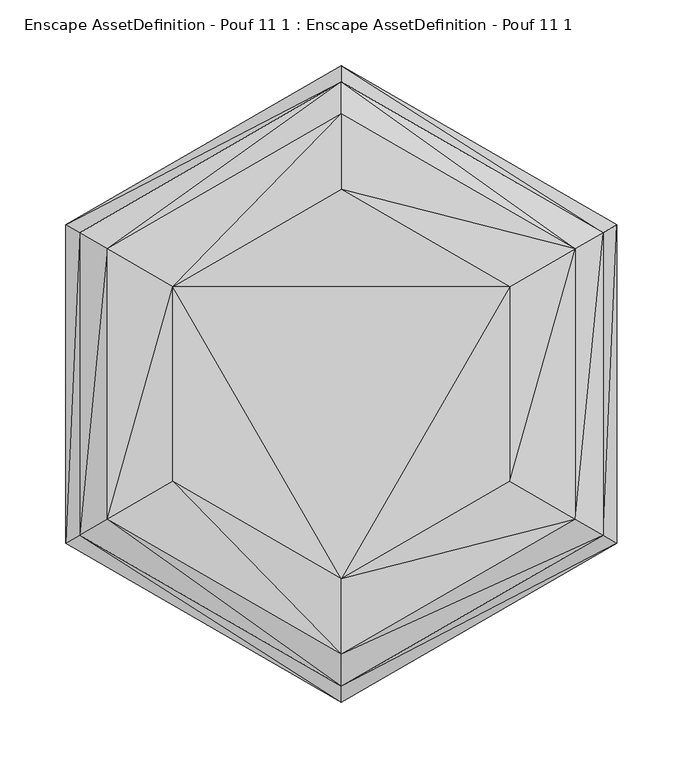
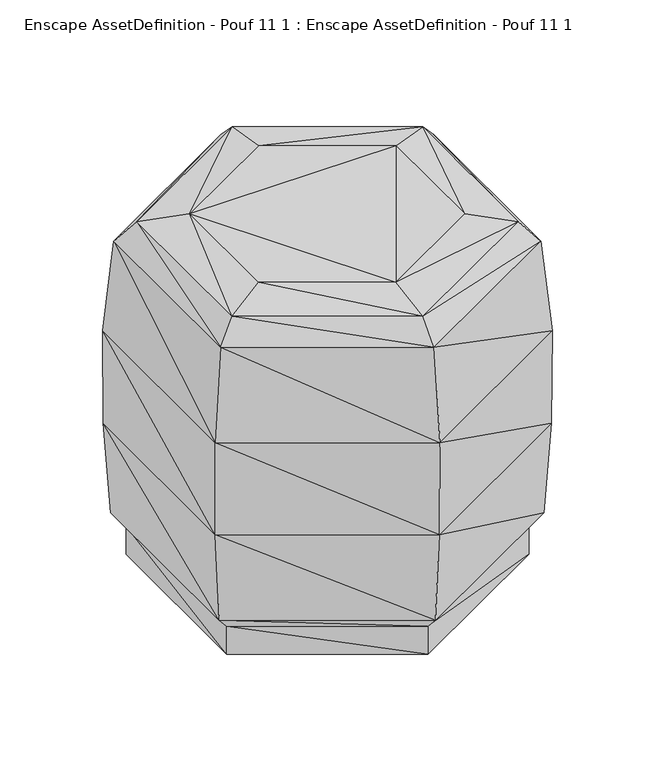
"""IFC4 building model written with IfcOpenShell, lengths in millimetres: geographic element geometry, Enscape AssetDefinition - Pouf 11 1 : Enscape AssetDefinition - Pouf 11 1."""

from ifc_helpers import new_model, si_unit, origin, place, context, project, spatial, faceted_brep, source, transform, mapped, element, save


def enscape_assetdefinition_pouf_11_1_enscape_assetdefinition_35691895(model_context):
    return source(origin(), model_context, "Body", "Brep", [
        faceted_brep([(0.0, -241.7850047, 171.8679965), (209.3919963, -120.8930016, 171.8679965), (0.0, -242.5999939, 293.7639952), (209.3919963, 120.8930016, 171.8679965), (210.0979984, -121.299997, 293.7639952), (202.3310065, -116.8159992, 54.4570014), (202.3310065, 116.8159992, 54.4570014), (0.0, 241.7850047, 171.8679965), (210.0979984, 121.299997, 293.7639952), (0.0, 233.6309999, 54.4570014), (0.0, -230.37, 411.9899869), (199.5059997, -115.185, 411.9899869), (0.0, 242.5999939, 293.7639952), (199.5059997, 115.185, 411.9899869), (0.0, -205.9089988, 437.673986), (178.3230007, -102.9549986, 437.673986), (-199.5059997, -115.185, 411.9899869), (-178.3230007, -102.9549986, 437.673986), (0.0, -148.4269947, 447.6450086), (-128.5409927, -74.2129982, 447.6450086), (178.3230007, 102.9549986, 437.673986), (128.5409927, -74.2129982, 447.6450086), (-128.5409927, 74.2129982, 447.6450086), (128.5409927, 74.2129982, 447.6450086), (0.0, 148.4269947, 447.6450086), (0.0, 205.9089988, 437.673986), (-178.3230007, 102.9549986, 437.673986), (0.0, 230.37, 411.9899869), (-199.5059997, 115.185, 411.9899869), (-210.0979984, 121.299997, 293.7639952), (-210.0979984, -121.299997, 293.7639952), (-209.3919963, -120.8920032, 171.8679965), (-209.3919963, 120.8920032, 171.8679965), (-202.3310065, -116.8159992, 54.4570014), (0.0, -233.6309999, 54.4570014), (0.0, -217.3240036, 36.4510007), (188.2079989, -108.6620018, 36.4510007), (-202.3310065, 116.8159992, 54.4570014), (-188.2079989, -108.6620018, 36.4510007), (-188.2079989, 108.6620018, 36.4510007), (-188.2079989, -108.6620018, 0.0), (0.0, -217.3240036, 0.0), (188.2079989, -108.6620018, 0.0), (0.0, 217.3240036, 0.0), (-188.2079989, 108.6620018, 0.0), (0.0, 217.3240036, 36.4510007), (188.2079989, 108.6620018, 36.4510007), (188.2079989, 108.6620018, 0.0)], [[[0, 1, 2]], [[1, 3, 4]], [[5, 6, 1]], [[2, 1, 4]], [[0, 5, 1]], [[1, 6, 3]], [[3, 7, 8]], [[6, 9, 3]], [[4, 3, 8]], [[3, 9, 7]], [[2, 4, 10]], [[4, 8, 11]], [[10, 4, 11]], [[8, 12, 13]], [[8, 7, 12]], [[11, 8, 13]], [[10, 11, 14]], [[11, 13, 15]], [[14, 11, 15]], [[16, 10, 17]], [[16, 2, 10]], [[17, 10, 14]], [[14, 15, 18]], [[17, 14, 19]], [[19, 14, 18]], [[15, 20, 21]], [[15, 13, 20]], [[18, 15, 21]], [[22, 18, 23]], [[18, 22, 19]], [[23, 18, 21]], [[22, 17, 19]], [[24, 25, 22]], [[26, 17, 22]], [[22, 25, 26]], [[22, 23, 24]], [[23, 20, 24]], [[21, 20, 23]], [[24, 20, 25]], [[13, 27, 20]], [[20, 27, 25]], [[25, 27, 26]], [[28, 16, 26]], [[26, 27, 28]], [[26, 16, 17]], [[12, 29, 27]], [[13, 12, 27]], [[27, 29, 28]], [[29, 30, 28]], [[28, 30, 16]], [[30, 2, 16]], [[31, 0, 30]], [[29, 31, 30]], [[30, 0, 2]], [[12, 7, 29]], [[32, 31, 29]], [[29, 7, 32]], [[33, 34, 31]], [[32, 33, 31]], [[31, 34, 0]], [[34, 5, 0]], [[35, 36, 34]], [[34, 36, 5]], [[33, 35, 34]], [[37, 33, 32]], [[38, 35, 33]], [[37, 38, 33]], [[7, 37, 32]], [[9, 37, 7]], [[39, 38, 37]], [[9, 39, 37]], [[40, 41, 38]], [[39, 40, 38]], [[38, 41, 35]], [[41, 42, 35]], [[35, 42, 36]], [[43, 42, 41]], [[43, 41, 40]], [[44, 40, 39]], [[43, 40, 44]], [[45, 39, 9]], [[45, 44, 39]], [[6, 45, 9]], [[46, 45, 6]], [[43, 44, 45]], [[46, 43, 45]], [[47, 43, 46]], [[42, 43, 47]], [[42, 47, 36]], [[36, 47, 46]], [[36, 46, 5]], [[5, 46, 6]]]),
    ])


if __name__ == "__main__":
    model = new_model("IFC4")
    model_context = context("Model", 3, world=origin())
    ifc_project = project(units=[si_unit("LENGTHUNIT", "METRE", prefix="MILLI")], contexts=[model_context])
    site = spatial("IfcSite", under=ifc_project)
    building = spatial("IfcBuilding", under=site)
    placement = place(None, origin())
    enscape_assetdefinition_pouf_11_1_enscape_assetdefinition_shape = enscape_assetdefinition_pouf_11_1_enscape_assetdefinition_35691895(model_context)
    element("IfcGeographicElement", 1, ObjectType="Enscape AssetDefinition - Pouf 11 1 : Enscape AssetDefinition - Pouf 11 1", at=placement, inside=building, context=model_context, shape_type="MappedRepresentation", body=[
        mapped(enscape_assetdefinition_pouf_11_1_enscape_assetdefinition_shape, transform((0.0, 0.0, 0.0), x_axis=(1.0, 0.0, 0.0), y_axis=(0.0, 1.0, 0.0), z_axis=(0.0, 0.0, 1.0))),
    ])
    save(model, "model.ifc")
